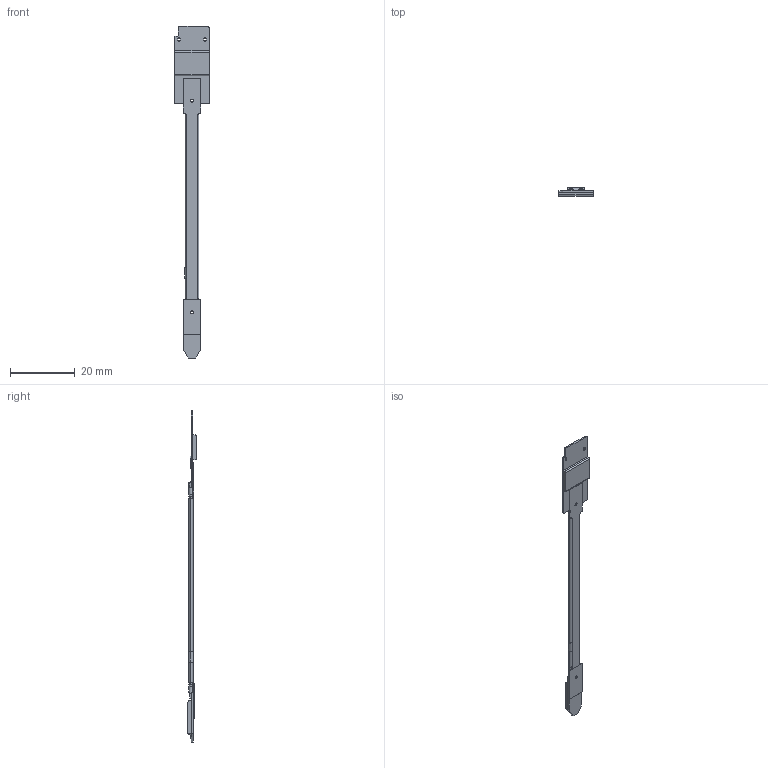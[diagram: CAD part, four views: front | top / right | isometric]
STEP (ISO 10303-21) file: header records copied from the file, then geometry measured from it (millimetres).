
FILE_DESCRIPTION((''),'2;1');
FILE_NAME('P77STCABL_CUSTOMER','2021-02-03T11:26:25',('mmoore2'),(''),'CREO PARAMETRIC BY PTC INC, 2019080','CREO PARAMETRIC BY PTC INC, 2019080','');
FILE_SCHEMA(('CONFIG_CONTROL_DESIGN','SHAPE_APPEARANCE_LAYERS_GROUPS'));
Length unit declared in the file: inch
Products named in the file (1): P77STCABL_CUSTOMER
Bounding box: 10.54 x 2.75 x 102.87 mm (x, y, z)
Surface area: 2232.1 mm2 (no closed solid volume)
Topology: 0 solids, 27 shells, 239 faces, 727 edges, 518 vertices
Faces by surface type: plane 112, cylinder 96, bspline 31
Entity records: 11013 total; most frequent: CARTESIAN_POINT 2970, DIRECTION 1273, ORIENTED_EDGE 1162, EDGE_CURVE 727, VERTEX_POINT 518, AXIS2_PLACEMENT_3D 437, VECTOR 399, LINE 399
